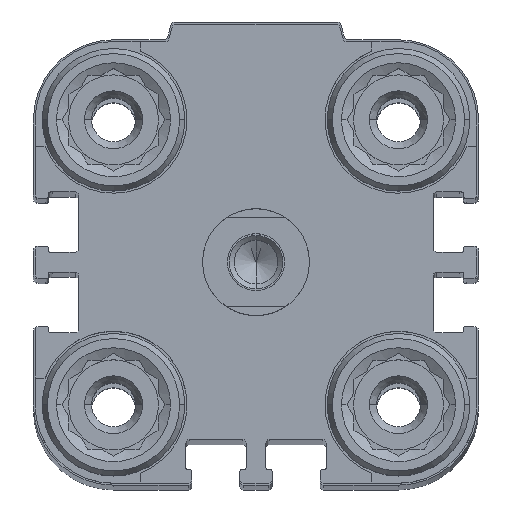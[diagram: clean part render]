
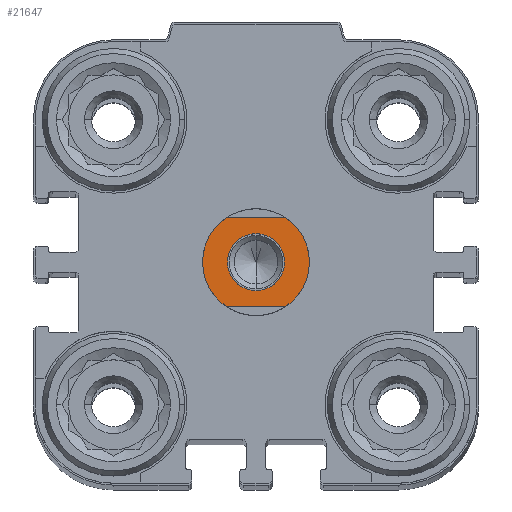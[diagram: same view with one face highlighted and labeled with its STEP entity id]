
A CAD part, top view. The second image highlights one B-rep face of the part: STEP entity #21647.
In plain terms, the highlighted planar face has unit normal (0, 0, 1).
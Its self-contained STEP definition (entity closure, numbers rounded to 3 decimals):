
#183 = CARTESIAN_POINT ( 'NONE',  ( 3.317, -5., 6. ) ) ;
#206 = AXIS2_PLACEMENT_3D ( 'NONE', #19700, #7393, #19367 ) ;
#246 = CARTESIAN_POINT ( 'NONE',  ( -6., 0., 6. ) ) ;
#678 = EDGE_LOOP ( 'NONE', ( #20137, #10896 ) ) ;
#922 = AXIS2_PLACEMENT_3D ( 'NONE', #21207, #17869, #2026 ) ;
#1525 = ORIENTED_EDGE ( 'NONE', *, *, #8914, .F. ) ;
#2026 = DIRECTION ( 'NONE',  ( -1., 0., 0. ) ) ;
#2495 = CARTESIAN_POINT ( 'NONE',  ( 0., -3.2, 6. ) ) ;
#3062 = AXIS2_PLACEMENT_3D ( 'NONE', #19016, #16868, #6589 ) ;
#3134 = CIRCLE ( 'NONE', #11491, 3.2 ) ;
#3153 = DIRECTION ( 'NONE',  ( -1., 0., 0. ) ) ;
#3754 = DIRECTION ( 'NONE',  ( 0., 0., -1. ) ) ;
#4959 = EDGE_CURVE ( 'NONE', #13114, #7964, #15987, .T. ) ;
#4987 = EDGE_CURVE ( 'NONE', #20274, #12863, #12345, .T. ) ;
#6013 = CARTESIAN_POINT ( 'NONE',  ( -3.317, -5., 6. ) ) ;
#6208 = DIRECTION ( 'NONE',  ( 0., 0., -1. ) ) ;
#6379 = ORIENTED_EDGE ( 'NONE', *, *, #16665, .F. ) ;
#6589 = DIRECTION ( 'NONE',  ( -1., 0., 0. ) ) ;
#7393 = DIRECTION ( 'NONE',  ( 0., 0., -1. ) ) ;
#7964 = VERTEX_POINT ( 'NONE', #246 ) ;
#8080 = EDGE_LOOP ( 'NONE', ( #18833, #6379, #17852, #16243, #1525, #17251 ) ) ;
#8914 = EDGE_CURVE ( 'NONE', #10222, #16721, #21968, .T. ) ;
#9872 = DIRECTION ( 'NONE',  ( 0., 0., -1. ) ) ;
#9987 = DIRECTION ( 'NONE',  ( 0., 1., 0. ) ) ;
#10071 = CARTESIAN_POINT ( 'NONE',  ( 10., -5., 6. ) ) ;
#10222 = VERTEX_POINT ( 'NONE', #14916 ) ;
#10339 = VECTOR ( 'NONE', #17687, 1000. ) ;
#10400 = CIRCLE ( 'NONE', #922, 6. ) ;
#10873 = AXIS2_PLACEMENT_3D ( 'NONE', #16838, #9872, #3153 ) ;
#10896 = ORIENTED_EDGE ( 'NONE', *, *, #4987, .T. ) ;
#11052 = LINE ( 'NONE', #19608, #10339 ) ;
#11491 = AXIS2_PLACEMENT_3D ( 'NONE', #16993, #3754, #17768 ) ;
#11977 = EDGE_CURVE ( 'NONE', #16721, #13114, #14345, .T. ) ;
#12345 = CIRCLE ( 'NONE', #12705, 3.2 ) ;
#12525 = PLANE ( 'NONE',  #206 ) ;
#12705 = AXIS2_PLACEMENT_3D ( 'NONE', #15136, #17171, #9987 ) ;
#12863 = VERTEX_POINT ( 'NONE', #13555 ) ;
#13114 = VERTEX_POINT ( 'NONE', #6013 ) ;
#13555 = CARTESIAN_POINT ( 'NONE',  ( 0., 3.2, 6. ) ) ;
#14345 = LINE ( 'NONE', #10071, #19684 ) ;
#14530 = CARTESIAN_POINT ( 'NONE',  ( 0., 0., 6. ) ) ;
#14565 = FACE_OUTER_BOUND ( 'NONE', #8080, .T. ) ;
#14916 = CARTESIAN_POINT ( 'NONE',  ( 6., 0., 6. ) ) ;
#15136 = CARTESIAN_POINT ( 'NONE',  ( 0., 0., 6. ) ) ;
#15380 = AXIS2_PLACEMENT_3D ( 'NONE', #14530, #6208, #19788 ) ;
#15987 = CIRCLE ( 'NONE', #10873, 6. ) ;
#16243 = ORIENTED_EDGE ( 'NONE', *, *, #11977, .F. ) ;
#16665 = EDGE_CURVE ( 'NONE', #7964, #20231, #19082, .T. ) ;
#16721 = VERTEX_POINT ( 'NONE', #183 ) ;
#16838 = CARTESIAN_POINT ( 'NONE',  ( 0., 0., 6. ) ) ;
#16868 = DIRECTION ( 'NONE',  ( 0., 0., -1. ) ) ;
#16993 = CARTESIAN_POINT ( 'NONE',  ( 0., 0., 6. ) ) ;
#17171 = DIRECTION ( 'NONE',  ( 0., 0., -1. ) ) ;
#17251 = ORIENTED_EDGE ( 'NONE', *, *, #17974, .F. ) ;
#17388 = CARTESIAN_POINT ( 'NONE',  ( 3.317, 5., 6. ) ) ;
#17687 = DIRECTION ( 'NONE',  ( 1., 0., 0. ) ) ;
#17768 = DIRECTION ( 'NONE',  ( 0., 1., 0. ) ) ;
#17852 = ORIENTED_EDGE ( 'NONE', *, *, #4959, .F. ) ;
#17869 = DIRECTION ( 'NONE',  ( 0., 0., -1. ) ) ;
#17873 = FACE_BOUND ( 'NONE', #678, .T. ) ;
#17974 = EDGE_CURVE ( 'NONE', #19072, #10222, #10400, .T. ) ;
#18573 = CARTESIAN_POINT ( 'NONE',  ( -3.317, 5., 6. ) ) ;
#18833 = ORIENTED_EDGE ( 'NONE', *, *, #20061, .F. ) ;
#19016 = CARTESIAN_POINT ( 'NONE',  ( 0., 0., 6. ) ) ;
#19072 = VERTEX_POINT ( 'NONE', #17388 ) ;
#19082 = CIRCLE ( 'NONE', #3062, 6. ) ;
#19367 = DIRECTION ( 'NONE',  ( 0., 1., 0. ) ) ;
#19608 = CARTESIAN_POINT ( 'NONE',  ( -10., 5., 6. ) ) ;
#19684 = VECTOR ( 'NONE', #22305, 1000. ) ;
#19700 = CARTESIAN_POINT ( 'NONE',  ( 0., 0., 6. ) ) ;
#19788 = DIRECTION ( 'NONE',  ( -1., 0., 0. ) ) ;
#20061 = EDGE_CURVE ( 'NONE', #20231, #19072, #11052, .T. ) ;
#20137 = ORIENTED_EDGE ( 'NONE', *, *, #21563, .T. ) ;
#20231 = VERTEX_POINT ( 'NONE', #18573 ) ;
#20274 = VERTEX_POINT ( 'NONE', #2495 ) ;
#21207 = CARTESIAN_POINT ( 'NONE',  ( 0., 0., 6. ) ) ;
#21563 = EDGE_CURVE ( 'NONE', #12863, #20274, #3134, .T. ) ;
#21647 = ADVANCED_FACE ( 'NONE', ( #14565, #17873 ), #12525, .F. ) ;
#21968 = CIRCLE ( 'NONE', #15380, 6. ) ;
#22305 = DIRECTION ( 'NONE',  ( -1., 0., 0. ) ) ;
